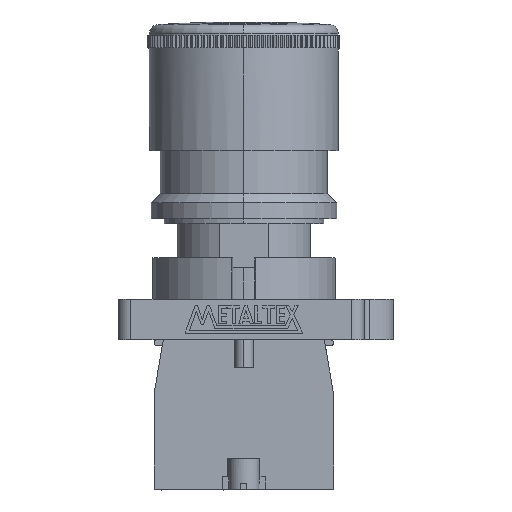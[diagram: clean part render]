
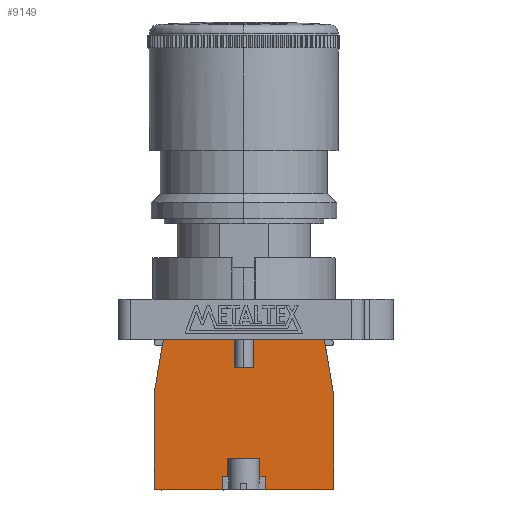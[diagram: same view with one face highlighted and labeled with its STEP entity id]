
A CAD part, top view. The second image highlights one B-rep face of the part: STEP entity #9149.
In plain terms, the highlighted planar face has unit normal (0, 0, 1).
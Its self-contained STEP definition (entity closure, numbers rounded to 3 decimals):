
#336 = ORIENTED_EDGE ( 'NONE', *, *, #21451, .T. ) ;
#337 = ORIENTED_EDGE ( 'NONE', *, *, #21450, .T. ) ;
#338 = ORIENTED_EDGE ( 'NONE', *, *, #21561, .T. ) ;
#339 = ORIENTED_EDGE ( 'NONE', *, *, #1469, .T. ) ;
#340 = ORIENTED_EDGE ( 'NONE', *, *, #21493, .T. ) ;
#341 = ORIENTED_EDGE ( 'NONE', *, *, #21449, .T. ) ;
#342 = ORIENTED_EDGE ( 'NONE', *, *, #21447, .T. ) ;
#343 = ORIENTED_EDGE ( 'NONE', *, *, #21448, .T. ) ;
#344 = ORIENTED_EDGE ( 'NONE', *, *, #1431, .F. ) ;
#345 = ORIENTED_EDGE ( 'NONE', *, *, #21446, .F. ) ;
#346 = ORIENTED_EDGE ( 'NONE', *, *, #21444, .F. ) ;
#347 = ORIENTED_EDGE ( 'NONE', *, *, #21445, .T. ) ;
#348 = ORIENTED_EDGE ( 'NONE', *, *, #21496, .T. ) ;
#349 = ORIENTED_EDGE ( 'NONE', *, *, #1476, .T. ) ;
#350 = ORIENTED_EDGE ( 'NONE', *, *, #21455, .T. ) ;
#351 = ORIENTED_EDGE ( 'NONE', *, *, #1465, .T. ) ;
#352 = ORIENTED_EDGE ( 'NONE', *, *, #21443, .F. ) ;
#354 = ORIENTED_EDGE ( 'NONE', *, *, #21568, .T. ) ;
#1431 = EDGE_CURVE ( 'NONE', #20691, #20689, #22075, .T. ) ;
#1465 = EDGE_CURVE ( 'NONE', #20740, #20728, #22178, .T. ) ;
#1469 = EDGE_CURVE ( 'NONE', #20731, #20733, #22190, .T. ) ;
#1476 = EDGE_CURVE ( 'NONE', #20739, #20740, #22211, .T. ) ;
#2957 = LINE ( 'NONE', #2959, #13698 ) ;
#2959 = CARTESIAN_POINT ( 'NONE',  ( 1.5, 19.6, 7.45 ) ) ;
#2961 = DIRECTION ( 'NONE',  ( 0., 1., 0. ) ) ;
#2963 = LINE ( 'NONE', #2965, #13697 ) ;
#2965 = CARTESIAN_POINT ( 'NONE',  ( 3.5, 0., 7.45 ) ) ;
#2966 = DIRECTION ( 'NONE',  ( 0., 1., 0. ) ) ;
#2968 = LINE ( 'NONE', #2970, #13696 ) ;
#2970 = CARTESIAN_POINT ( 'NONE',  ( 0., 2., 7.45 ) ) ;
#2972 = DIRECTION ( 'NONE',  ( 1., 0., 0. ) ) ;
#2973 = LINE ( 'NONE', #2975, #13695 ) ;
#2975 = CARTESIAN_POINT ( 'NONE',  ( 2.6, 0., 7.45 ) ) ;
#2977 = DIRECTION ( 'NONE',  ( 0., 1., 0. ) ) ;
#2979 = LINE ( 'NONE', #2980, #13694 ) ;
#2980 = CARTESIAN_POINT ( 'NONE',  ( -2.6, 0., 7.45 ) ) ;
#2982 = DIRECTION ( 'NONE',  ( 0., 1., 0. ) ) ;
#2984 = LINE ( 'NONE', #2986, #13693 ) ;
#2986 = CARTESIAN_POINT ( 'NONE',  ( 0., 2., 7.45 ) ) ;
#2988 = DIRECTION ( 'NONE',  ( 1., 0., 0. ) ) ;
#2989 = LINE ( 'NONE', #2991, #13692 ) ;
#2991 = CARTESIAN_POINT ( 'NONE',  ( -3.5, 0., 7.45 ) ) ;
#2993 = DIRECTION ( 'NONE',  ( 0., 1., 0. ) ) ;
#2995 = LINE ( 'NONE', #2997, #13691 ) ;
#2997 = CARTESIAN_POINT ( 'NONE',  ( -1.5, 19.6, 7.45 ) ) ;
#2998 = DIRECTION ( 'NONE',  ( 0., 1., 0. ) ) ;
#3000 = LINE ( 'NONE', #3002, #13690 ) ;
#3002 = CARTESIAN_POINT ( 'NONE',  ( -13., 24.2, 7.45 ) ) ;
#3004 = DIRECTION ( 'NONE',  ( -0.17, -0.985, 0. ) ) ;
#3021 = LINE ( 'NONE', #3023, #13686 ) ;
#3023 = CARTESIAN_POINT ( 'NONE',  ( 14.5, 0., 7.45 ) ) ;
#3025 = DIRECTION ( 'NONE',  ( 0., 1., 0. ) ) ;
#3224 = LINE ( 'NONE', #3226, #13644 ) ;
#3226 = CARTESIAN_POINT ( 'NONE',  ( -14.5, 0., 7.45 ) ) ;
#3228 = DIRECTION ( 'NONE',  ( 1., 0., 0. ) ) ;
#3240 = LINE ( 'NONE', #3242, #13641 ) ;
#3242 = CARTESIAN_POINT ( 'NONE',  ( -14.5, 0., 7.45 ) ) ;
#3244 = DIRECTION ( 'NONE',  ( 1., 0., 0. ) ) ;
#4465 = CARTESIAN_POINT ( 'NONE',  ( 3.5, 2., 7.45 ) ) ;
#4470 = CARTESIAN_POINT ( 'NONE',  ( 2.6, 2., 7.45 ) ) ;
#4471 = CARTESIAN_POINT ( 'NONE',  ( -2.6, 2., 7.45 ) ) ;
#4476 = CARTESIAN_POINT ( 'NONE',  ( -3.5, 2., 7.45 ) ) ;
#4602 = CARTESIAN_POINT ( 'NONE',  ( -3.5, 0., 7.45 ) ) ;
#4613 = CARTESIAN_POINT ( 'NONE',  ( 14.5, 0., 7.45 ) ) ;
#4618 = CARTESIAN_POINT ( 'NONE',  ( 3.5, 0., 7.45 ) ) ;
#4852 = CARTESIAN_POINT ( 'NONE',  ( -14.5, 15.5, 7.45 ) ) ;
#4853 = CARTESIAN_POINT ( 'NONE',  ( -14.5, 0., 7.45 ) ) ;
#4884 = CARTESIAN_POINT ( 'NONE',  ( -1.5, 19.6, 7.45 ) ) ;
#4894 = CARTESIAN_POINT ( 'NONE',  ( 1.5, 19.6, 7.45 ) ) ;
#4905 = CARTESIAN_POINT ( 'NONE',  ( -2.6, 5., 7.45 ) ) ;
#4910 = CARTESIAN_POINT ( 'NONE',  ( 2.6, 5., 7.45 ) ) ;
#4995 = CARTESIAN_POINT ( 'NONE',  ( 1.5, 24.2, 7.45 ) ) ;
#5001 = CARTESIAN_POINT ( 'NONE',  ( -1.5, 24.2, 7.45 ) ) ;
#5006 = CARTESIAN_POINT ( 'NONE',  ( -13., 24.2, 7.45 ) ) ;
#5021 = CARTESIAN_POINT ( 'NONE',  ( 14.5, 15.5, 7.45 ) ) ;
#5022 = CARTESIAN_POINT ( 'NONE',  ( 13., 24.2, 7.45 ) ) ;
#5692 = VECTOR ( 'NONE', #22213, 1000. ) ;
#5699 = VECTOR ( 'NONE', #22192, 1000. ) ;
#5703 = VECTOR ( 'NONE', #22180, 1000. ) ;
#5715 = VECTOR ( 'NONE', #22077, 1000. ) ;
#7785 = PLANE ( 'NONE',  #15149 ) ;
#7786 = CARTESIAN_POINT ( 'NONE',  ( 0., 0., 7.45 ) ) ;
#7787 = DIRECTION ( 'NONE',  ( 0., 0., 1. ) ) ;
#7788 = DIRECTION ( 'NONE',  ( 1., 0., 0. ) ) ;
#9149 = ADVANCED_FACE ( 'NONE', ( #15155 ), #7785, .T. ) ;
#13583 = VECTOR ( 'NONE', #15593, 1000. ) ;
#13590 = VECTOR ( 'NONE', #15561, 1000. ) ;
#13641 = VECTOR ( 'NONE', #3244, 1000. ) ;
#13644 = VECTOR ( 'NONE', #3228, 1000. ) ;
#13686 = VECTOR ( 'NONE', #3025, 1000. ) ;
#13690 = VECTOR ( 'NONE', #3004, 1000. ) ;
#13691 = VECTOR ( 'NONE', #2998, 1000. ) ;
#13692 = VECTOR ( 'NONE', #2993, 1000. ) ;
#13693 = VECTOR ( 'NONE', #2988, 1000. ) ;
#13694 = VECTOR ( 'NONE', #2982, 1000. ) ;
#13695 = VECTOR ( 'NONE', #2977, 1000. ) ;
#13696 = VECTOR ( 'NONE', #2972, 1000. ) ;
#13697 = VECTOR ( 'NONE', #2966, 1000. ) ;
#13698 = VECTOR ( 'NONE', #2961, 1000. ) ;
#15149 = AXIS2_PLACEMENT_3D ( 'NONE', #7786, #7787, #7788 ) ;
#15155 = FACE_OUTER_BOUND ( 'NONE', #21877, .T. ) ;
#15557 = LINE ( 'NONE', #15559, #13590 ) ;
#15559 = CARTESIAN_POINT ( 'NONE',  ( -14.5, 15.5, 7.45 ) ) ;
#15561 = DIRECTION ( 'NONE',  ( 0., -1., 0. ) ) ;
#15590 = LINE ( 'NONE', #15592, #13583 ) ;
#15592 = CARTESIAN_POINT ( 'NONE',  ( 0., 19.6, 7.45 ) ) ;
#15593 = DIRECTION ( 'NONE',  ( -1., 0., 0. ) ) ;
#20498 = VERTEX_POINT ( 'NONE', #4465 ) ;
#20500 = VERTEX_POINT ( 'NONE', #4470 ) ;
#20501 = VERTEX_POINT ( 'NONE', #4471 ) ;
#20503 = VERTEX_POINT ( 'NONE', #4476 ) ;
#20557 = VERTEX_POINT ( 'NONE', #4602 ) ;
#20562 = VERTEX_POINT ( 'NONE', #4613 ) ;
#20564 = VERTEX_POINT ( 'NONE', #4618 ) ;
#20666 = VERTEX_POINT ( 'NONE', #4852 ) ;
#20667 = VERTEX_POINT ( 'NONE', #4853 ) ;
#20680 = VERTEX_POINT ( 'NONE', #4884 ) ;
#20684 = VERTEX_POINT ( 'NONE', #4894 ) ;
#20689 = VERTEX_POINT ( 'NONE', #4905 ) ;
#20691 = VERTEX_POINT ( 'NONE', #4910 ) ;
#20728 = VERTEX_POINT ( 'NONE', #4995 ) ;
#20731 = VERTEX_POINT ( 'NONE', #5001 ) ;
#20733 = VERTEX_POINT ( 'NONE', #5006 ) ;
#20739 = VERTEX_POINT ( 'NONE', #5021 ) ;
#20740 = VERTEX_POINT ( 'NONE', #5022 ) ;
#21443 = EDGE_CURVE ( 'NONE', #20684, #20728, #2957, .T. ) ;
#21444 = EDGE_CURVE ( 'NONE', #20564, #20498, #2963, .T. ) ;
#21445 = EDGE_CURVE ( 'NONE', #20500, #20498, #2968, .T. ) ;
#21446 = EDGE_CURVE ( 'NONE', #20500, #20691, #2973, .T. ) ;
#21447 = EDGE_CURVE ( 'NONE', #20501, #20689, #2979, .T. ) ;
#21448 = EDGE_CURVE ( 'NONE', #20503, #20501, #2984, .T. ) ;
#21449 = EDGE_CURVE ( 'NONE', #20557, #20503, #2989, .T. ) ;
#21450 = EDGE_CURVE ( 'NONE', #20680, #20731, #2995, .T. ) ;
#21451 = EDGE_CURVE ( 'NONE', #20733, #20666, #3000, .T. ) ;
#21455 = EDGE_CURVE ( 'NONE', #20562, #20739, #3021, .T. ) ;
#21493 = EDGE_CURVE ( 'NONE', #20667, #20557, #3224, .T. ) ;
#21496 = EDGE_CURVE ( 'NONE', #20564, #20562, #3240, .T. ) ;
#21561 = EDGE_CURVE ( 'NONE', #20666, #20667, #15557, .T. ) ;
#21568 = EDGE_CURVE ( 'NONE', #20684, #20680, #15590, .T. ) ;
#21877 = EDGE_LOOP ( 'NONE', ( #337, #339, #336, #338, #340, #341, #343, #342, #344, #345, #347, #346, #348, #350, #349, #351, #352, #354 ) ) ;
#22075 = LINE ( 'NONE', #22076, #5715 ) ;
#22076 = CARTESIAN_POINT ( 'NONE',  ( 0., 5., 7.45 ) ) ;
#22077 = DIRECTION ( 'NONE',  ( -1., 0., 0. ) ) ;
#22178 = LINE ( 'NONE', #22179, #5703 ) ;
#22179 = CARTESIAN_POINT ( 'NONE',  ( 13., 24.2, 7.45 ) ) ;
#22180 = DIRECTION ( 'NONE',  ( -1., 0., 0. ) ) ;
#22190 = LINE ( 'NONE', #22191, #5699 ) ;
#22191 = CARTESIAN_POINT ( 'NONE',  ( 13., 24.2, 7.45 ) ) ;
#22192 = DIRECTION ( 'NONE',  ( -1., 0., 0. ) ) ;
#22211 = LINE ( 'NONE', #22212, #5692 ) ;
#22212 = CARTESIAN_POINT ( 'NONE',  ( 14.5, 15.5, 7.45 ) ) ;
#22213 = DIRECTION ( 'NONE',  ( -0.17, 0.985, 0. ) ) ;
